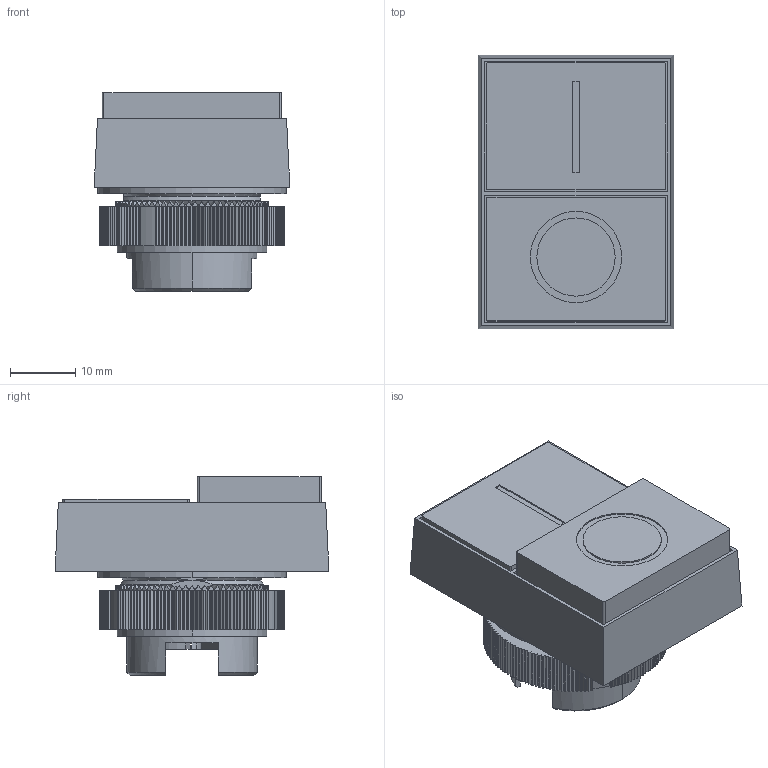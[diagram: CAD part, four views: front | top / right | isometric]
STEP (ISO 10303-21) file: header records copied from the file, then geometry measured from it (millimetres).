
FILE_DESCRIPTION (( 'STEP AP214' ), '1' );
FILE_NAME ('3D 斁麧錪 MTB2-EL84.STEP', '2017-08-29T12:17:23', ( '' ), ( '' ), 'SwSTEP 2.0', 'SolidWorks 2011', '' );
FILE_SCHEMA (( 'AUTOMOTIVE_DESIGN' ));
Length unit declared in the file: millimetre
Products named in the file (4): MTB2-EL84; Êîëüöî-ãàéêà; 3D 斁麧錪 MTB2-EL84; 暑朦鲱 箫腩蝽栩咫铄
Assembly tree (3 placements, depth 2):
  3D 斁麧錪 MTB2-EL84
    MTB2-EL84
    暑朦鲱 箫腩蝽栩咫铄
    Êîëüöî-ãàéêà
Bounding box: 30 x 42 x 30.5 mm (x, y, z)
Volume: 19991.3 mm3; surface area: 10753.4 mm2
Topology: 3 solids, 5 shells, 845 faces, 2410 edges, 1590 vertices
Faces by surface type: plane 531, cylinder 195, bspline 74, cone 45
Entity records: 36847 total; most frequent: CARTESIAN_POINT 12069, ORIENTED_EDGE 4820, DIRECTION 3848, EDGE_CURVE 2410, VERTEX_POINT 1590, VECTOR 1366, LINE 1366, AXIS2_PLACEMENT_3D 1241
